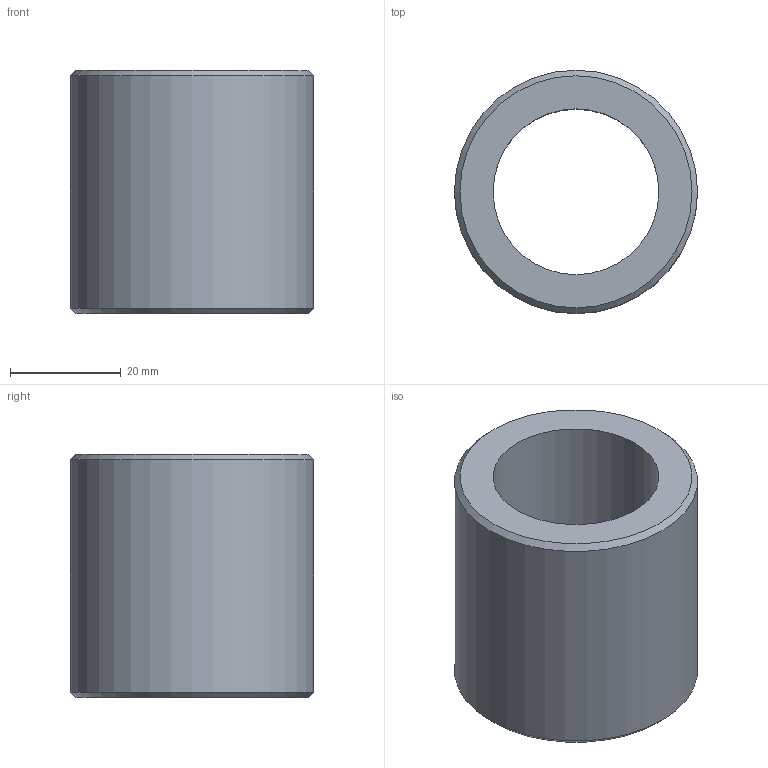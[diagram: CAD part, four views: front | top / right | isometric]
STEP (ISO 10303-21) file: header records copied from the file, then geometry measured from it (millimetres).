
FILE_DESCRIPTION(('STEP AP203'),'1');
FILE_NAME('//192.168.1.1/share/s-4 技術開発/s-4-4_CAD/s-4-4-3_見直し済み/007 修正済み/DB/DB_TOP/DB-30.step','2022-02-08T07:28:09',(' '),(' '),'Spatial InterOp 3D',' ',' ');
FILE_SCHEMA(('CONFIG_CONTROL_DESIGN'));
Length unit declared in the file: millimetre
Products named in the file (1): 1
Bounding box: 44 x 44 x 44 mm (x, y, z)
Volume: 35665.5 mm3; surface area: 11691.8 mm2
Topology: 1 solids, 1 shells, 6 faces, 10 edges, 6 vertices
Faces by surface type: plane 2, cylinder 2, cone 2
Full cylindrical faces by diameter (mm): 30 x1, 44 x1
Entity records: 172 total; most frequent: DIRECTION 26, CARTESIAN_POINT 19, AXIS2_PLACEMENT_3D 13, EDGE_LOOP 12, ORIENTED_EDGE 12, FACE_OUTER_BOUND 8, ADVANCED_FACE 6, EDGE_CURVE 6
